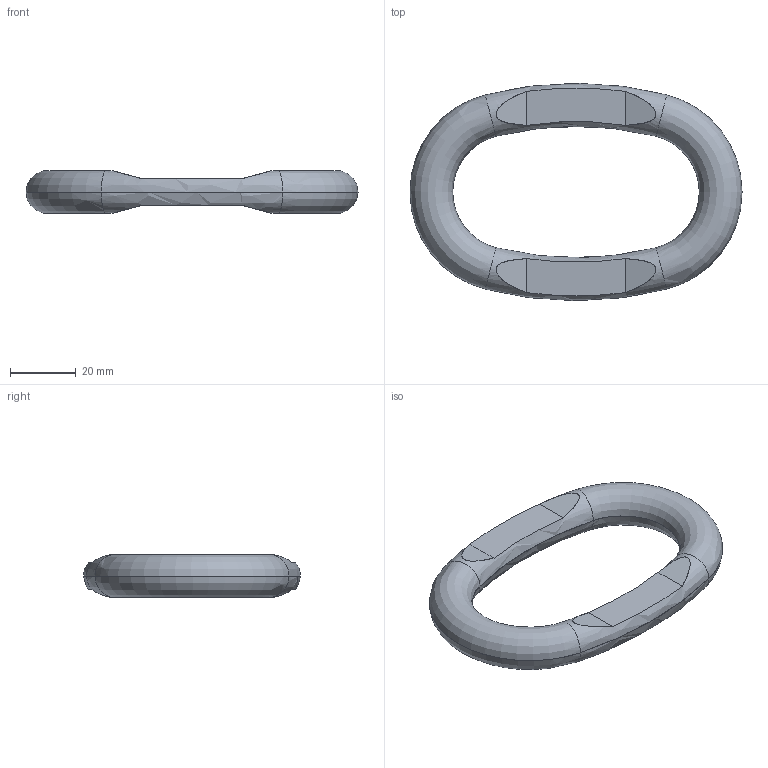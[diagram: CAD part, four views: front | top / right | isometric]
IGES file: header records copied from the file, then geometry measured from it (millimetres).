
Start section:  PTC IGES file: G:\TBM\Rehwagen\Dateitypen\Oval-Glieder\8502174.igs
Global section: file name: G:\TBM\Rehwagen\Dateitypen\Oval-Glieder\8502174.igs; native system: Pro/ENGINEER by Parametric Technology Corporation; preprocessor: 2001400; author: Rehwagena; organization: Unknown; date: 060221.130801; units: millimetre
Bounding box: 101 x 66.06 x 13 mm (x, y, z)
Surface area: 9246.4 mm2 (no closed solid volume)
Topology: 0 solids, 0 shells, 20 faces, 80 edges, 80 vertices
Faces by surface type: bspline 12, revolution 8
